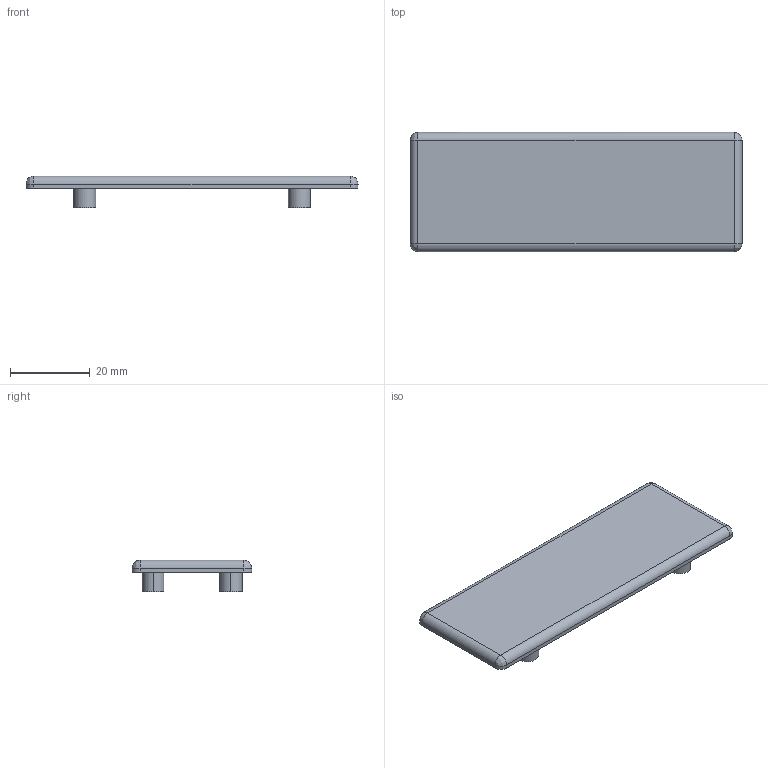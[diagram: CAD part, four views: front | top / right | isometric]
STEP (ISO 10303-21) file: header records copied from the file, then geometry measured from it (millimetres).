
FILE_DESCRIPTION (( 'STEP AP203' ), '1' );
FILE_NAME ('0106AKW6060.STEP', '2024-03-12T08:11:13', ( 'Windows-Benutzer' ), ( '' ), 'SwSTEP 2.0', 'SolidWorks 2023', '' );
FILE_SCHEMA (( 'CONFIG_CONTROL_DESIGN' ));
Length unit declared in the file: millimetre
Products named in the file (1): 0106AKW6060
Bounding box: 83.5 x 30 x 8 mm (x, y, z)
Volume: 7793.2 mm3; surface area: 5826.8 mm2
Topology: 1 solids, 1 shells, 30 faces, 64 edges, 36 vertices
Faces by surface type: cylinder 16, plane 10, bspline 4
Entity records: 907 total; most frequent: CARTESIAN_POINT 196, DIRECTION 144, ORIENTED_EDGE 120, EDGE_CURVE 60, AXIS2_PLACEMENT_3D 58, VERTEX_POINT 36, EDGE_LOOP 34, CIRCLE 31
